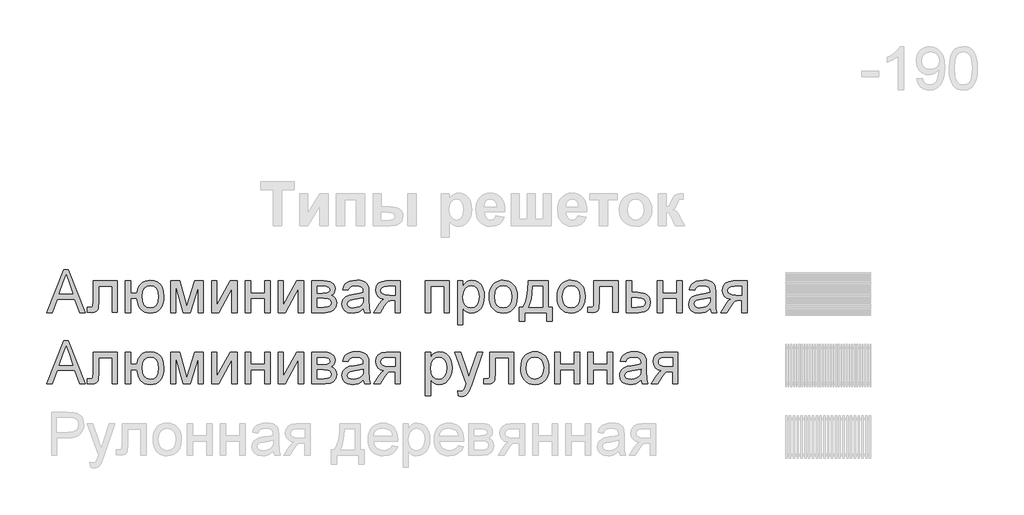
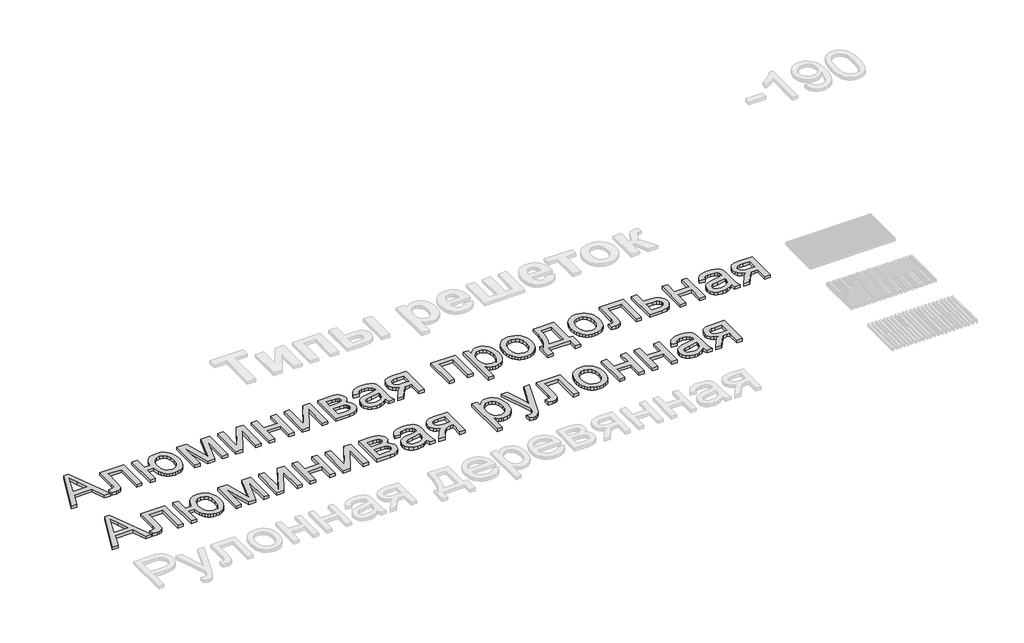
# One storey, part 2 of 10: 2 proxies.
"""IFC4 building model written with IfcOpenShell, lengths in millimetres."""

from ifc_helpers import new_model, si_unit, origin, origin_with_axes, place, context, project, spatial, polyline, outline, extrude, element, save

model = new_model("IFC4")

# Units and contexts
model_context = context("Model", 3, world=origin())
ifc_project = project(units=[si_unit("LENGTHUNIT", "METRE", prefix="MILLI")], contexts=[model_context])

# Site, building, storey
site = spatial("IfcSite", under=ifc_project)
building = spatial("IfcBuilding", under=site)
storey = spatial("IfcBuildingStorey", under=building, Name="Уровень 1", Elevation=0.0)

# Proxies
placement = place(None, origin())
element("IfcBuildingElementProxy", 1, Name="300", ObjectType="300", at=placement, inside=storey, context=model_context, shape_type="SweptSolid", body=[
    extrude(outline(polyline([(29.0156644, -18515.1127464), (149.3130768, -18213.7438159), (181.3923868, -18213.7438159), (301.6897992, -18515.1127464), (261.8849673, -18515.1127464), (227.3776362, -18420.9349556), (103.254251, -18420.9349556), (68.8204963, -18515.1127464), (29.0156644, -18515.1127464)]), holes=[polyline([(117.086614, -18383.2638393), (213.6188496, -18383.2638393), (186.4691583, -18309.1724055), (165.3527318, -18251.4149322), (146.5907501, -18302.6976824), (117.086614, -18383.2638393)])]), origin_with_axes(), (0.0, 0.0, 1.0), 20.0),
    extrude(outline(polyline([(356.0627581, -18293.7949381), (525.5827815, -18293.7949381), (525.5827815, -18514.8920172), (487.9116652, -18514.8920172), (487.9116652, -18331.4660544), (393.7338744, -18331.4660544), (393.7338744, -18437.048187), (391.1954887, -18485.7557632), (386.4406139, -18496.783026), (377.252761, -18506.3203667), (363.3100334, -18512.9146515), (344.2905343, -18515.1127464), (313.6827523, -18513.19976), (313.6827523, -18477.4416301), (330.5317476, -18477.4416301), (347.564684, -18475.1239735), (354.3705009, -18467.7663336), (356.0627581, -18434.9144714), (356.0627581, -18293.7949381)])), origin_with_axes(), (0.0, 0.0, 1.0), 20.0),
    extrude(outline(polyline([(582.0894559, -18293.7949381), (619.7605723, -18293.7949381), (619.7605723, -18378.5549498), (662.1405781, -18378.5549498), (671.9170421, -18340.1480695), (680.4404081, -18324.8073903), (691.3871967, -18312.041885), (704.4493068, -18301.9987066), (719.3186372, -18294.8250077), (754.4789589, -18289.0860485), (784.0290802, -18292.4613658), (806.6078376, -18302.5873178), (824.0270501, -18318.6361698), (838.0985364, -18339.7801875), (847.3967538, -18367.5920663), (850.4961596, -18403.6445018), (848.8935737, -18430.4998875), (844.0858159, -18453.8971824), (836.0728862, -18473.8363865), (824.8547846, -18490.3174999), (810.8913636, -18503.2255594), (794.6424757, -18512.4456019), (776.1081209, -18517.9776274), (755.2882993, -18519.8216359), (735.8848233, -18518.0925905), (718.5092968, -18512.9054544), (703.1617198, -18504.2602275), (689.8420923, -18492.1569099), (678.8815081, -18477.0369599), (670.611061, -18459.3418359), (662.1405781, -18416.2260661), (619.7605723, -18416.2260661), (619.7605723, -18515.1127464), (582.0894559, -18515.1127464), (582.0894559, -18293.7949381)]), holes=[polyline([(756.9069801, -18326.7571648), (732.8934828, -18331.6316013), (714.858068, -18346.2549106), (703.5732878, -18369.6705996), (699.8116944, -18400.9221751), (703.600879, -18437.3332956), (714.9684326, -18462.5424093), (732.6819507, -18477.248492), (755.5090285, -18482.1505196), (778.4004856, -18477.616374), (796.7486001, -18464.0139373), (808.8059325, -18440.3131397), (812.8250433, -18405.4839118), (809.3485585, -18371.04096), (798.9191039, -18346.4388516), (781.4631032, -18331.6775865), (756.9069801, -18326.7571648)])]), origin_with_axes(), (0.0, 0.0, 1.0), 20.0),
    extrude(outline(polyline([(897.585055, -18293.7949381), (962.4058626, -18293.7949381), (1012.3642375, -18470.966907), (1066.2221616, -18293.7949381), (1128.3206424, -18293.7949381), (1128.3206424, -18515.1127464), (1090.6495261, -18515.1127464), (1090.6495261, -18336.9107079), (1036.4972964, -18515.1127464), (987.0539562, -18515.1127464), (935.2561713, -18328.3758456), (935.2561713, -18515.1127464), (897.585055, -18515.1127464), (897.585055, -18293.7949381)])), origin_with_axes(), (0.0, 0.0, 1.0), 20.0),
    extrude(outline(polyline([(1184.8273168, -18293.7949381), (1222.4984332, -18293.7949381), (1222.4984332, -18462.5791975), (1315.0575431, -18293.7949381), (1363.7651193, -18293.7949381), (1363.7651193, -18515.1127464), (1326.094003, -18515.1127464), (1326.094003, -18347.3585566), (1234.1235042, -18515.1127464), (1184.8273168, -18515.1127464), (1184.8273168, -18293.7949381)])), origin_with_axes(), (0.0, 0.0, 1.0), 20.0),
    extrude(outline(polyline([(1420.2717938, -18293.7949381), (1457.9429101, -18293.7949381), (1457.9429101, -18378.5549498), (1556.8295904, -18378.5549498), (1556.8295904, -18293.7949381), (1594.5007067, -18293.7949381), (1594.5007067, -18515.1127464), (1556.8295904, -18515.1127464), (1556.8295904, -18416.2260661), (1457.9429101, -18416.2260661), (1457.9429101, -18515.1127464), (1420.2717938, -18515.1127464), (1420.2717938, -18293.7949381)])), origin_with_axes(), (0.0, 0.0, 1.0), 20.0),
    extrude(outline(polyline([(1651.0073811, -18293.7949381), (1688.6784974, -18293.7949381), (1688.6784974, -18462.5791975), (1781.2376074, -18293.7949381), (1829.9451836, -18293.7949381), (1829.9451836, -18515.1127464), (1792.2740673, -18515.1127464), (1792.2740673, -18347.3585566), (1700.3035685, -18515.1127464), (1651.0073811, -18515.1127464), (1651.0073811, -18293.7949381)])), origin_with_axes(), (0.0, 0.0, 1.0), 20.0),
    extrude(outline(polyline([(1886.451858, -18293.7949381), (1969.4460362, -18293.7949381), (1996.1266779, -18295.0549339), (2014.953039, -18298.8349214), (2028.8037961, -18305.9718321), (2040.5576258, -18317.3025976), (2048.5866504, -18332.0638626), (2051.2629919, -18349.4922722), (2049.6443111, -18363.5361673), (2044.7882688, -18375.648682), (2036.6764708, -18385.8849985), (2025.290523, -18394.3002992), (2039.2332506, -18402.1269886), (2050.6008043, -18414.7177499), (2058.1607793, -18431.0793016), (2060.680771, -18450.2183624), (2054.2980183, -18478.9315522), (2039.122886, -18499.1466678), (2015.1001918, -18511.1212267), (1982.1747532, -18515.1127464), (1886.451858, -18515.1127464), (1886.451858, -18293.7949381)]), holes=[polyline([(1924.1229744, -18378.5549498), (1961.3526323, -18378.5549498), (1992.0707789, -18376.6419634), (2007.0067879, -18368.9900179), (2011.9456037, -18362.6624476), (2013.5918756, -18355.1576549), (2010.7040019, -18343.9188599), (2002.0403809, -18336.6899787), (1986.387002, -18332.7720355), (1962.5298546, -18331.4660544), (1924.1229744, -18331.4660544), (1924.1229744, -18378.5549498)]), polyline([(1924.1229744, -18477.4416301), (1970.3289529, -18477.4416301), (1995.5104755, -18475.7401758), (2011.3110072, -18470.6358132), (2019.7906872, -18461.3559898), (2023.0096547, -18447.1281537), (2021.4001709, -18437.7011775), (2016.5717197, -18428.9915713), (2009.1588975, -18422.1765573), (1999.7963008, -18418.433358), (1966.650133, -18416.2260661), (1924.1229744, -18416.2260661), (1924.1229744, -18477.4416301)])]), origin_with_axes(), (0.0, 0.0, 1.0), 20.0),
    extrude(outline(polyline([(2249.0363525, -18486.8594092), (2231.0377259, -18502.2920588), (2212.5056704, -18512.3904196), (2193.0171217, -18517.9638318), (2172.1490155, -18519.8216359), (2140.6675138, -18515.3518697), (2117.4449628, -18501.942571), (2103.1251562, -18481.5803025), (2098.3518873, -18456.2516272), (2100.154509, -18440.6350365), (2105.5623744, -18426.4531855), (2113.9040986, -18414.3130797), (2124.5082971, -18404.8217242), (2150.8854362, -18392.4608892), (2183.479781, -18386.7955065), (2221.9970258, -18380.8358181), (2248.8156233, -18373.8460602), (2249.0363525, -18365.4583507), (2246.4427844, -18348.6461436), (2238.6620802, -18337.6464719), (2221.2612619, -18329.4794916), (2197.0178384, -18326.7571648), (2174.5770367, -18328.5689837), (2158.9052637, -18334.0044402), (2148.2182917, -18344.0568157), (2140.7318931, -18359.7193916), (2103.0607768, -18355.0105021), (2109.5998793, -18334.4091103), (2119.3579492, -18318.2223026), (2133.2454945, -18305.8430734), (2152.1730232, -18296.6644176), (2175.3219977, -18290.9806408), (2201.8738807, -18289.0860485), (2227.3405118, -18290.7599116), (2247.5280363, -18295.7815009), (2262.7491539, -18303.3322788), (2273.3165642, -18312.593708), (2280.3247162, -18324.0440351), (2284.8680588, -18338.1615067), (2286.7074688, -18371.1237335), (2286.7074688, -18417.9918997), (2288.6204552, -18483.4381066), (2296.1252479, -18515.1127464), (2258.4541316, -18515.1127464), (2249.0363525, -18486.8594092)]), holes=[polyline([(2249.0363525, -18411.5171765), (2188.2622469, -18423.0686712), (2155.8518431, -18429.1755123), (2141.1733515, -18439.1083262), (2136.0230036, -18453.6028768), (2138.8281038, -18464.8048835), (2147.2434044, -18473.9835393), (2161.0849645, -18480.1087745), (2180.168843, -18482.1505196), (2200.4023527, -18479.8972424), (2218.2814177, -18473.1374107), (2232.7759683, -18463.1770057), (2242.855935, -18451.3220084), (2247.3257012, -18439.1083262), (2248.8156233, -18422.1857544), (2249.0363525, -18411.5171765)])]), origin_with_axes(), (0.0, 0.0, 1.0), 20.0),
    extrude(outline(polyline([(2508.0252771, -18293.7949381), (2508.0252771, -18515.1127464), (2470.3541608, -18515.1127464), (2470.3541608, -18430.3527347), (2449.8263455, -18430.3527347), (2421.8673138, -18435.1352006), (2410.7020953, -18445.5646552), (2395.6005394, -18467.288087), (2365.5813686, -18515.1127464), (2322.0241403, -18515.1127464), (2359.8424094, -18454.6329464), (2376.544252, -18432.9279087), (2391.9217194, -18423.2894004), (2366.1699798, -18415.3983316), (2348.0701856, -18400.4071403), (2337.3648195, -18380.4679361), (2333.7963642, -18357.7328288), (2338.6708006, -18331.944301), (2353.2941099, -18311.5268502), (2377.1512573, -18298.2279161), (2409.727208, -18293.7949381), (2508.0252771, -18293.7949381)]), holes=[polyline([(2470.3541608, -18331.4660544), (2420.6900914, -18331.4660544), (2395.0395193, -18333.6457552), (2380.4805894, -18340.1848577), (2373.7207577, -18349.648622), (2371.4674805, -18360.6023084), (2374.7876155, -18374.9589033), (2384.7480205, -18384.9193083), (2403.1513173, -18390.7410409), (2431.8001277, -18392.6816184), (2470.3541608, -18392.6816184), (2470.3541608, -18331.4660544)])]), origin_with_axes(), (0.0, 0.0, 1.0), 20.0),
    extrude(outline(polyline([(2682.25419, -18293.7949381), (2851.7742134, -18293.7949381), (2851.7742134, -18515.1127464), (2814.1030971, -18515.1127464), (2814.1030971, -18331.4660544), (2719.9253063, -18331.4660544), (2719.9253063, -18515.1127464), (2682.25419, -18515.1127464), (2682.25419, -18293.7949381)])), origin_with_axes(), (0.0, 0.0, 1.0), 20.0),
    extrude(outline(polyline([(2908.2808879, -18599.8727581), (2908.2808879, -18293.7949381), (2945.9520042, -18293.7949381), (2945.9520042, -18330.7302904), (2958.2392628, -18312.5109346), (2971.9980494, -18299.497109), (2988.0377044, -18291.6888137), (3007.1675682, -18289.0860485), (3032.6433963, -18292.7280803), (3054.9186511, -18303.6541756), (3073.0552335, -18321.2021467), (3086.1150443, -18344.7098062), (3094.0061131, -18372.4665028), (3096.6364694, -18402.7615851), (3093.6658223, -18434.9788508), (3084.7538809, -18463.7932081), (3070.1857539, -18487.7423259), (3050.2465498, -18505.3638735), (3027.0239988, -18516.2071953), (3002.6058314, -18519.8216359), (2985.2877865, -18517.4028118), (2969.8275456, -18510.1463394), (2956.5929909, -18499.192653), (2945.9520042, -18485.6821868), (2945.9520042, -18599.8727581), (2908.2808879, -18599.8727581)]), holes=[polyline([(2945.9520042, -18406.2196758), (2950.0262973, -18439.991243), (2962.2491765, -18463.6092671), (2980.2845914, -18477.5152065), (3001.796491, -18482.1505196), (3023.6578786, -18477.3496596), (3042.1531459, -18462.9470795), (3054.7623013, -18438.4645327), (3058.9653531, -18403.4237726), (3054.8634688, -18369.8361465), (3042.5578161, -18345.8870286), (3024.5499924, -18331.5396308), (3003.3415954, -18326.7571648), (2982.0504249, -18331.8431334), (2963.3528225, -18347.1010392), (2950.3022087, -18372.0526355), (2945.9520042, -18406.2196758)])]), origin_with_axes(), (0.0, 0.0, 1.0), 20.0),
    extrude(outline(polyline([(3129.5986961, -18404.4538422), (3131.6358427, -18375.7912363), (3137.7472823, -18351.0925588), (3147.9330151, -18330.3578099), (3162.1930409, -18313.5869894), (3176.5496358, -18302.8678278), (3192.3961527, -18295.2112838), (3209.7325917, -18290.6173573), (3228.5589529, -18289.0860485), (3249.3419863, -18290.9507504), (3268.1338585, -18296.544856), (3284.9345693, -18305.8683653), (3299.7441189, -18318.9212784), (3311.8313417, -18335.2621367), (3320.4650723, -18354.449482), (3325.6453106, -18376.4833143), (3327.3720568, -18401.3636335), (3324.3186362, -18439.4210259), (3315.1583745, -18468.391733), (3300.1579862, -18490.0875737), (3279.5841856, -18506.3203667), (3255.1476241, -18516.4463186), (3228.5589529, -18519.8216359), (3207.4724167, -18517.9638318), (3188.5058006, -18512.3904196), (3171.6591045, -18503.1013992), (3156.9323284, -18490.0967707), (3144.9738643, -18473.5972632), (3136.4321042, -18453.823606), (3131.3070482, -18430.775799), (3129.5986961, -18404.4538422)]), holes=[polyline([(3167.2698125, -18404.3802658), (3171.6292141, -18438.4737297), (3184.707419, -18462.7631385), (3204.3891058, -18477.3036743), (3228.5589529, -18482.1505196), (3252.6184353, -18477.2760832), (3272.2633339, -18462.6527739), (3285.3415388, -18438.0414684), (3289.7009404, -18403.2030434), (3285.3139477, -18370.1028609), (3272.1529693, -18346.144546), (3252.4804796, -18331.6040101), (3228.5589529, -18326.7571648), (3204.3891058, -18331.585616), (3184.707419, -18346.0709696), (3171.6292141, -18370.305196), (3167.2698125, -18404.3802658)])]), origin_with_axes(), (0.0, 0.0, 1.0), 20.0),
    extrude(outline(polyline([(3402.7142894, -18293.7949381), (3543.9809755, -18293.7949381), (3543.9809755, -18477.4416301), (3572.2343127, -18477.4416301), (3572.2343127, -18576.3283104), (3534.5631964, -18576.3283104), (3534.5631964, -18515.1127464), (3379.1698417, -18515.1127464), (3379.1698417, -18576.3283104), (3341.4987254, -18576.3283104), (3341.4987254, -18477.4416301), (3365.0431731, -18477.4416301), (3382.1588829, -18446.5119513), (3394.1426389, -18405.5942764), (3400.994441, -18354.6886053), (3402.7142894, -18293.7949381)]), holes=[polyline([(3435.6765161, -18331.4660544), (3432.5863074, -18377.5892595), (3426.8473483, -18417.2929239), (3418.4596388, -18450.5770474), (3407.4231789, -18477.4416301), (3506.3098592, -18477.4416301), (3506.3098592, -18331.4660544), (3435.6765161, -18331.4660544)])]), origin_with_axes(), (0.0, 0.0, 1.0), 20.0),
    extrude(outline(polyline([(3605.1965395, -18404.4538422), (3607.2336861, -18375.7912363), (3613.3451257, -18351.0925588), (3623.5308584, -18330.3578099), (3637.7908843, -18313.5869894), (3652.1474791, -18302.8678278), (3667.9939961, -18295.2112838), (3685.3304351, -18290.6173573), (3704.1567962, -18289.0860485), (3724.9398297, -18290.9507504), (3743.7317018, -18296.544856), (3760.5324127, -18305.8683653), (3775.3419623, -18318.9212784), (3787.4291851, -18335.2621367), (3796.0629157, -18354.449482), (3801.243154, -18376.4833143), (3802.9699001, -18401.3636335), (3799.9164796, -18439.4210259), (3790.7562179, -18468.391733), (3775.7558295, -18490.0875737), (3755.1820289, -18506.3203667), (3730.7454674, -18516.4463186), (3704.1567962, -18519.8216359), (3683.0702601, -18517.9638318), (3664.103644, -18512.3904196), (3647.2569479, -18503.1013992), (3632.5301718, -18490.0967707), (3620.5717076, -18473.5972632), (3612.0299476, -18453.823606), (3606.9048915, -18430.775799), (3605.1965395, -18404.4538422)]), holes=[polyline([(3642.8676558, -18404.3802658), (3647.2270575, -18438.4737297), (3660.3052624, -18462.7631385), (3679.9869491, -18477.3036743), (3704.1567962, -18482.1505196), (3728.2162787, -18477.2760832), (3747.8611772, -18462.6527739), (3760.9393822, -18438.0414684), (3765.2987838, -18403.2030434), (3760.911791, -18370.1028609), (3747.7508126, -18346.144546), (3728.078323, -18331.6040101), (3704.1567962, -18326.7571648), (3679.9869491, -18331.585616), (3660.3052624, -18346.0709696), (3647.2270575, -18370.305196), (3642.8676558, -18404.3802658)])]), origin_with_axes(), (0.0, 0.0, 1.0), 20.0),
    extrude(outline(polyline([(3864.1854641, -18293.7949381), (4033.7054875, -18293.7949381), (4033.7054875, -18514.8920172), (3996.0343712, -18514.8920172), (3996.0343712, -18331.4660544), (3901.8565804, -18331.4660544), (3901.8565804, -18437.048187), (3899.3181947, -18485.7557632), (3894.5633199, -18496.783026), (3885.375467, -18506.3203667), (3871.4327394, -18512.9146515), (3852.4132403, -18515.1127464), (3821.8054583, -18513.19976), (3821.8054583, -18477.4416301), (3838.6544537, -18477.4416301), (3855.68739, -18475.1239735), (3862.4932069, -18467.7663336), (3864.1854641, -18434.9144714), (3864.1854641, -18293.7949381)])), origin_with_axes(), (0.0, 0.0, 1.0), 20.0),
    extrude(outline(polyline([(4090.212162, -18293.7949381), (4127.8832783, -18293.7949381), (4127.8832783, -18373.8460602), (4171.2933537, -18373.8460602), (4208.9276818, -18378.5641468), (4224.0752229, -18384.4617551), (4236.7763488, -18392.7184066), (4246.8195273, -18403.0489929), (4253.9932262, -18415.1684053), (4259.7321853, -18444.7737089), (4254.8485518, -18471.7302621), (4240.1976514, -18494.4745665), (4228.9657542, -18503.5037702), (4214.8045967, -18509.9532014), (4177.6945004, -18515.1127464), (4090.212162, -18515.1127464), (4090.212162, -18293.7949381)]), holes=[polyline([(4127.8832783, -18477.4416301), (4163.052797, -18477.4416301), (4190.340444, -18475.4642644), (4208.4862234, -18469.5321672), (4218.6673576, -18459.4062153), (4222.061069, -18444.8472853), (4219.5502744, -18432.5416326), (4212.0178906, -18421.6707196), (4195.877068, -18414.0555623), (4167.5409573, -18411.5171765), (4127.8832783, -18411.5171765), (4127.8832783, -18477.4416301)])]), origin_with_axes(), (0.0, 0.0, 1.0), 20.0),
    extrude(outline(polyline([(4306.8210807, -18293.7949381), (4344.492197, -18293.7949381), (4344.492197, -18378.5549498), (4443.3788773, -18378.5549498), (4443.3788773, -18293.7949381), (4481.0499936, -18293.7949381), (4481.0499936, -18515.1127464), (4443.3788773, -18515.1127464), (4443.3788773, -18416.2260661), (4344.492197, -18416.2260661), (4344.492197, -18515.1127464), (4306.8210807, -18515.1127464), (4306.8210807, -18293.7949381)])), origin_with_axes(), (0.0, 0.0, 1.0), 20.0),
    extrude(outline(polyline([(4678.8233542, -18486.8594092), (4660.8247276, -18502.2920588), (4642.2926721, -18512.3904196), (4622.8041234, -18517.9638318), (4601.9360172, -18519.8216359), (4570.4545155, -18515.3518697), (4547.2319646, -18501.942571), (4532.9121579, -18481.5803025), (4528.138889, -18456.2516272), (4529.9415108, -18440.6350365), (4535.3493761, -18426.4531855), (4543.6911004, -18414.3130797), (4554.2952989, -18404.8217242), (4580.6724379, -18392.4608892), (4613.2667827, -18386.7955065), (4651.7840276, -18380.8358181), (4678.602625, -18373.8460602), (4678.8233542, -18365.4583507), (4676.2297862, -18348.6461436), (4668.449082, -18337.6464719), (4651.0482636, -18329.4794916), (4626.8048401, -18326.7571648), (4604.3640384, -18328.5689837), (4588.6922654, -18334.0044402), (4578.0052935, -18344.0568157), (4570.5188949, -18359.7193916), (4532.8477786, -18355.0105021), (4539.386881, -18334.4091103), (4549.1449509, -18318.2223026), (4563.0324963, -18305.8430734), (4581.9600249, -18296.6644176), (4605.1089995, -18290.9806408), (4631.6608825, -18289.0860485), (4657.1275136, -18290.7599116), (4677.3150381, -18295.7815009), (4692.5361556, -18303.3322788), (4703.1035659, -18312.593708), (4710.1117179, -18324.0440351), (4714.6550606, -18338.1615067), (4716.4944705, -18371.1237335), (4716.4944705, -18417.9918997), (4718.4074569, -18483.4381066), (4725.9122496, -18515.1127464), (4688.2411333, -18515.1127464), (4678.8233542, -18486.8594092)]), holes=[polyline([(4678.8233542, -18411.5171765), (4618.0492486, -18423.0686712), (4585.6388449, -18429.1755123), (4570.9603533, -18439.1083262), (4565.8100053, -18453.6028768), (4568.6151055, -18464.8048835), (4577.0304062, -18473.9835393), (4590.8719662, -18480.1087745), (4609.9558447, -18482.1505196), (4630.1893545, -18479.8972424), (4648.0684194, -18473.1374107), (4662.5629701, -18463.1770057), (4672.6429367, -18451.3220084), (4677.112703, -18439.1083262), (4678.602625, -18422.1857544), (4678.8233542, -18411.5171765)])]), origin_with_axes(), (0.0, 0.0, 1.0), 20.0),
    extrude(outline(polyline([(4937.8122788, -18293.7949381), (4937.8122788, -18515.1127464), (4900.1411625, -18515.1127464), (4900.1411625, -18430.3527347), (4879.6133472, -18430.3527347), (4851.6543156, -18435.1352006), (4840.489097, -18445.5646552), (4825.3875411, -18467.288087), (4795.3683703, -18515.1127464), (4751.8111421, -18515.1127464), (4789.6294112, -18454.6329464), (4806.3312538, -18432.9279087), (4821.7087212, -18423.2894004), (4795.9569815, -18415.3983316), (4777.8571873, -18400.4071403), (4767.1518213, -18380.4679361), (4763.5833659, -18357.7328288), (4768.4578024, -18331.944301), (4783.0811117, -18311.5268502), (4806.9382591, -18298.2279161), (4839.5142097, -18293.7949381), (4937.8122788, -18293.7949381)]), holes=[polyline([(4900.1411625, -18331.4660544), (4850.4770932, -18331.4660544), (4824.8265211, -18333.6457552), (4810.2675911, -18340.1848577), (4803.5077595, -18349.648622), (4801.2544822, -18360.6023084), (4804.5746172, -18374.9589033), (4814.5350223, -18384.9193083), (4832.9383191, -18390.7410409), (4861.5871294, -18392.6816184), (4900.1411625, -18392.6816184), (4900.1411625, -18331.4660544)])]), origin_with_axes(), (0.0, 0.0, 1.0), 20.0),
])
element("IfcBuildingElementProxy", 2, Name="300", ObjectType="300", at=placement, inside=storey, context=model_context, shape_type="SweptSolid", body=[
    extrude(outline(polyline([(29.0156644, -19015.1127464), (149.3130768, -18713.7438159), (181.3923868, -18713.7438159), (301.6897992, -19015.1127464), (261.8849673, -19015.1127464), (227.3776362, -18920.9349556), (103.254251, -18920.9349556), (68.8204963, -19015.1127464), (29.0156644, -19015.1127464)]), holes=[polyline([(117.086614, -18883.2638393), (213.6188496, -18883.2638393), (186.4691583, -18809.1724055), (165.3527318, -18751.4149322), (146.5907501, -18802.6976824), (117.086614, -18883.2638393)])]), origin_with_axes(), (0.0, 0.0, 1.0), 20.0),
    extrude(outline(polyline([(356.0627581, -18793.7949381), (525.5827815, -18793.7949381), (525.5827815, -19014.8920172), (487.9116652, -19014.8920172), (487.9116652, -18831.4660544), (393.7338744, -18831.4660544), (393.7338744, -18937.048187), (391.1954887, -18985.7557632), (386.4406139, -18996.783026), (377.252761, -19006.3203667), (363.3100334, -19012.9146515), (344.2905343, -19015.1127464), (313.6827523, -19013.19976), (313.6827523, -18977.4416301), (330.5317476, -18977.4416301), (347.564684, -18975.1239735), (354.3705009, -18967.7663336), (356.0627581, -18934.9144714), (356.0627581, -18793.7949381)])), origin_with_axes(), (0.0, 0.0, 1.0), 20.0),
    extrude(outline(polyline([(582.0894559, -18793.7949381), (619.7605723, -18793.7949381), (619.7605723, -18878.5549498), (662.1405781, -18878.5549498), (671.9170421, -18840.1480695), (680.4404081, -18824.8073903), (691.3871967, -18812.041885), (704.4493068, -18801.9987066), (719.3186372, -18794.8250077), (754.4789589, -18789.0860485), (784.0290802, -18792.4613658), (806.6078376, -18802.5873178), (824.0270501, -18818.6361698), (838.0985364, -18839.7801875), (847.3967538, -18867.5920663), (850.4961596, -18903.6445018), (848.8935737, -18930.4998875), (844.0858159, -18953.8971824), (836.0728862, -18973.8363865), (824.8547846, -18990.3174999), (810.8913636, -19003.2255594), (794.6424757, -19012.4456019), (776.1081209, -19017.9776274), (755.2882993, -19019.8216359), (735.8848233, -19018.0925905), (718.5092968, -19012.9054544), (703.1617198, -19004.2602275), (689.8420923, -18992.1569099), (678.8815081, -18977.0369599), (670.611061, -18959.3418359), (662.1405781, -18916.2260661), (619.7605723, -18916.2260661), (619.7605723, -19015.1127464), (582.0894559, -19015.1127464), (582.0894559, -18793.7949381)]), holes=[polyline([(756.9069801, -18826.7571648), (732.8934828, -18831.6316013), (714.858068, -18846.2549106), (703.5732878, -18869.6705996), (699.8116944, -18900.9221751), (703.600879, -18937.3332956), (714.9684326, -18962.5424093), (732.6819507, -18977.248492), (755.5090285, -18982.1505196), (778.4004856, -18977.616374), (796.7486001, -18964.0139373), (808.8059325, -18940.3131397), (812.8250433, -18905.4839118), (809.3485585, -18871.04096), (798.9191039, -18846.4388516), (781.4631032, -18831.6775865), (756.9069801, -18826.7571648)])]), origin_with_axes(), (0.0, 0.0, 1.0), 20.0),
    extrude(outline(polyline([(897.585055, -18793.7949381), (962.4058626, -18793.7949381), (1012.3642375, -18970.966907), (1066.2221616, -18793.7949381), (1128.3206424, -18793.7949381), (1128.3206424, -19015.1127464), (1090.6495261, -19015.1127464), (1090.6495261, -18836.9107079), (1036.4972964, -19015.1127464), (987.0539562, -19015.1127464), (935.2561713, -18828.3758456), (935.2561713, -19015.1127464), (897.585055, -19015.1127464), (897.585055, -18793.7949381)])), origin_with_axes(), (0.0, 0.0, 1.0), 20.0),
    extrude(outline(polyline([(1184.8273168, -18793.7949381), (1222.4984332, -18793.7949381), (1222.4984332, -18962.5791975), (1315.0575431, -18793.7949381), (1363.7651193, -18793.7949381), (1363.7651193, -19015.1127464), (1326.094003, -19015.1127464), (1326.094003, -18847.3585566), (1234.1235042, -19015.1127464), (1184.8273168, -19015.1127464), (1184.8273168, -18793.7949381)])), origin_with_axes(), (0.0, 0.0, 1.0), 20.0),
    extrude(outline(polyline([(1420.2717938, -18793.7949381), (1457.9429101, -18793.7949381), (1457.9429101, -18878.5549498), (1556.8295904, -18878.5549498), (1556.8295904, -18793.7949381), (1594.5007067, -18793.7949381), (1594.5007067, -19015.1127464), (1556.8295904, -19015.1127464), (1556.8295904, -18916.2260661), (1457.9429101, -18916.2260661), (1457.9429101, -19015.1127464), (1420.2717938, -19015.1127464), (1420.2717938, -18793.7949381)])), origin_with_axes(), (0.0, 0.0, 1.0), 20.0),
    extrude(outline(polyline([(1651.0073811, -18793.7949381), (1688.6784974, -18793.7949381), (1688.6784974, -18962.5791975), (1781.2376074, -18793.7949381), (1829.9451836, -18793.7949381), (1829.9451836, -19015.1127464), (1792.2740673, -19015.1127464), (1792.2740673, -18847.3585566), (1700.3035685, -19015.1127464), (1651.0073811, -19015.1127464), (1651.0073811, -18793.7949381)])), origin_with_axes(), (0.0, 0.0, 1.0), 20.0),
    extrude(outline(polyline([(1886.451858, -18793.7949381), (1969.4460362, -18793.7949381), (1996.1266779, -18795.0549339), (2014.953039, -18798.8349214), (2028.8037961, -18805.9718321), (2040.5576258, -18817.3025976), (2048.5866504, -18832.0638626), (2051.2629919, -18849.4922722), (2049.6443111, -18863.5361673), (2044.7882688, -18875.648682), (2036.6764708, -18885.8849985), (2025.290523, -18894.3002992), (2039.2332506, -18902.1269886), (2050.6008043, -18914.7177499), (2058.1607793, -18931.0793016), (2060.680771, -18950.2183624), (2054.2980183, -18978.9315522), (2039.122886, -18999.1466678), (2015.1001918, -19011.1212267), (1982.1747532, -19015.1127464), (1886.451858, -19015.1127464), (1886.451858, -18793.7949381)]), holes=[polyline([(1924.1229744, -18878.5549498), (1961.3526323, -18878.5549498), (1992.0707789, -18876.6419634), (2007.0067879, -18868.9900179), (2011.9456037, -18862.6624476), (2013.5918756, -18855.1576549), (2010.7040019, -18843.9188599), (2002.0403809, -18836.6899787), (1986.387002, -18832.7720355), (1962.5298546, -18831.4660544), (1924.1229744, -18831.4660544), (1924.1229744, -18878.5549498)]), polyline([(1924.1229744, -18977.4416301), (1970.3289529, -18977.4416301), (1995.5104755, -18975.7401758), (2011.3110072, -18970.6358132), (2019.7906872, -18961.3559898), (2023.0096547, -18947.1281537), (2021.4001709, -18937.7011775), (2016.5717197, -18928.9915713), (2009.1588975, -18922.1765573), (1999.7963008, -18918.433358), (1966.650133, -18916.2260661), (1924.1229744, -18916.2260661), (1924.1229744, -18977.4416301)])]), origin_with_axes(), (0.0, 0.0, 1.0), 20.0),
    extrude(outline(polyline([(2249.0363525, -18986.8594092), (2231.0377259, -19002.2920588), (2212.5056704, -19012.3904196), (2193.0171217, -19017.9638318), (2172.1490155, -19019.8216359), (2140.6675138, -19015.3518697), (2117.4449628, -19001.942571), (2103.1251562, -18981.5803025), (2098.3518873, -18956.2516272), (2100.154509, -18940.6350365), (2105.5623744, -18926.4531855), (2113.9040986, -18914.3130797), (2124.5082971, -18904.8217242), (2150.8854362, -18892.4608892), (2183.479781, -18886.7955065), (2221.9970258, -18880.8358181), (2248.8156233, -18873.8460602), (2249.0363525, -18865.4583507), (2246.4427844, -18848.6461436), (2238.6620802, -18837.6464719), (2221.2612619, -18829.4794916), (2197.0178384, -18826.7571648), (2174.5770367, -18828.5689837), (2158.9052637, -18834.0044402), (2148.2182917, -18844.0568157), (2140.7318931, -18859.7193916), (2103.0607768, -18855.0105021), (2109.5998793, -18834.4091103), (2119.3579492, -18818.2223026), (2133.2454945, -18805.8430734), (2152.1730232, -18796.6644176), (2175.3219977, -18790.9806408), (2201.8738807, -18789.0860485), (2227.3405118, -18790.7599116), (2247.5280363, -18795.7815009), (2262.7491539, -18803.3322788), (2273.3165642, -18812.593708), (2280.3247162, -18824.0440351), (2284.8680588, -18838.1615067), (2286.7074688, -18871.1237335), (2286.7074688, -18917.9918997), (2288.6204552, -18983.4381066), (2296.1252479, -19015.1127464), (2258.4541316, -19015.1127464), (2249.0363525, -18986.8594092)]), holes=[polyline([(2249.0363525, -18911.5171765), (2188.2622469, -18923.0686712), (2155.8518431, -18929.1755123), (2141.1733515, -18939.1083262), (2136.0230036, -18953.6028768), (2138.8281038, -18964.8048835), (2147.2434044, -18973.9835393), (2161.0849645, -18980.1087745), (2180.168843, -18982.1505196), (2200.4023527, -18979.8972424), (2218.2814177, -18973.1374107), (2232.7759683, -18963.1770057), (2242.855935, -18951.3220084), (2247.3257012, -18939.1083262), (2248.8156233, -18922.1857544), (2249.0363525, -18911.5171765)])]), origin_with_axes(), (0.0, 0.0, 1.0), 20.0),
    extrude(outline(polyline([(2508.0252771, -18793.7949381), (2508.0252771, -19015.1127464), (2470.3541608, -19015.1127464), (2470.3541608, -18930.3527347), (2449.8263455, -18930.3527347), (2421.8673138, -18935.1352006), (2410.7020953, -18945.5646552), (2395.6005394, -18967.288087), (2365.5813686, -19015.1127464), (2322.0241403, -19015.1127464), (2359.8424094, -18954.6329464), (2376.544252, -18932.9279087), (2391.9217194, -18923.2894004), (2366.1699798, -18915.3983316), (2348.0701856, -18900.4071403), (2337.3648195, -18880.4679361), (2333.7963642, -18857.7328288), (2338.6708006, -18831.944301), (2353.2941099, -18811.5268502), (2377.1512573, -18798.2279161), (2409.727208, -18793.7949381), (2508.0252771, -18793.7949381)]), holes=[polyline([(2470.3541608, -18831.4660544), (2420.6900914, -18831.4660544), (2395.0395193, -18833.6457552), (2380.4805894, -18840.1848577), (2373.7207577, -18849.648622), (2371.4674805, -18860.6023084), (2374.7876155, -18874.9589033), (2384.7480205, -18884.9193083), (2403.1513173, -18890.7410409), (2431.8001277, -18892.6816184), (2470.3541608, -18892.6816184), (2470.3541608, -18831.4660544)])]), origin_with_axes(), (0.0, 0.0, 1.0), 20.0),
    extrude(outline(polyline([(2682.25419, -19099.8727581), (2682.25419, -18793.7949381), (2719.9253063, -18793.7949381), (2719.9253063, -18830.7302904), (2732.212565, -18812.5109346), (2745.9713516, -18799.497109), (2762.0110066, -18791.6888137), (2781.1408703, -18789.0860485), (2806.6166985, -18792.7280803), (2828.8919533, -18803.6541756), (2847.0285357, -18821.2021467), (2860.0883465, -18844.7098062), (2867.9794153, -18872.4665028), (2870.6097715, -18902.7615851), (2867.6391244, -18934.9788508), (2858.7271831, -18963.7932081), (2844.1590561, -18987.7423259), (2824.219852, -19005.3638735), (2800.997301, -19016.2071953), (2776.5791336, -19019.8216359), (2759.2610887, -19017.4028118), (2743.8008478, -19010.1463394), (2730.566293, -18999.192653), (2719.9253063, -18985.6821868), (2719.9253063, -19099.8727581), (2682.25419, -19099.8727581)]), holes=[polyline([(2719.9253063, -18906.2196758), (2723.9995994, -18939.991243), (2736.2224787, -18963.6092671), (2754.2578935, -18977.5152065), (2775.7697932, -18982.1505196), (2797.6311808, -18977.3496596), (2816.1264481, -18962.9470795), (2828.7356034, -18938.4645327), (2832.9386552, -18903.4237726), (2828.836771, -18869.8361465), (2816.5311183, -18845.8870286), (2798.5232946, -18831.5396308), (2777.3148976, -18826.7571648), (2756.0237271, -18831.8431334), (2737.3261247, -18847.1010392), (2724.2755109, -18872.0526355), (2719.9253063, -18906.2196758)])]), origin_with_axes(), (0.0, 0.0, 1.0), 20.0),
    extrude(outline(polyline([(2912.9897774, -19099.8727581), (2908.2808879, -19063.5995933), (2927.4107516, -19066.9105313), (2945.2898166, -19062.7534648), (2956.2527, -19051.1651819), (2966.5533959, -19023.4268795), (2969.4964518, -19014.303406), (2889.4453297, -18793.7949381), (2929.1765852, -18793.7949381), (2971.6301674, -18916.6675245), (2986.4190236, -18965.816559), (3001.2078798, -18922.4064836), (3044.8386845, -18793.7949381), (3084.2756343, -18793.7949381), (3007.2411446, -19020.4102471), (2987.228364, -19069.5592817), (2976.9828504, -19085.2494488), (2965.3761735, -19096.1203617), (2951.8932984, -19102.4663261), (2936.0191903, -19104.5816476), (2912.9897774, -19099.8727581)])), origin_with_axes(), (0.0, 0.0, 1.0), 20.0),
    extrude(outline(polyline([(3134.3075857, -18793.7949381), (3303.8276091, -18793.7949381), (3303.8276091, -19014.8920172), (3266.1564928, -19014.8920172), (3266.1564928, -18831.4660544), (3171.978702, -18831.4660544), (3171.978702, -18937.048187), (3169.4403162, -18985.7557632), (3164.6854414, -18996.783026), (3155.4975886, -19006.3203667), (3141.554861, -19012.9146515), (3122.5353618, -19015.1127464), (3091.9275798, -19013.19976), (3091.9275798, -18977.4416301), (3108.7765752, -18977.4416301), (3125.8095116, -18975.1239735), (3132.6153285, -18967.7663336), (3134.3075857, -18934.9144714), (3134.3075857, -18793.7949381)])), origin_with_axes(), (0.0, 0.0, 1.0), 20.0),
    extrude(outline(polyline([(3350.9165044, -18904.4538422), (3352.953651, -18875.7912363), (3359.0650906, -18851.0925588), (3369.2508234, -18830.3578099), (3383.5108492, -18813.5869894), (3397.8674441, -18802.8678278), (3413.713961, -18795.2112838), (3431.0504, -18790.6173573), (3449.8767611, -18789.0860485), (3470.6597946, -18790.9507504), (3489.4516668, -18796.544856), (3506.2523776, -18805.8683653), (3521.0619272, -18818.9212784), (3533.14915, -18835.2621367), (3541.7828806, -18854.449482), (3546.9631189, -18876.4833143), (3548.6898651, -18901.3636335), (3545.6364445, -18939.4210259), (3536.4761828, -18968.391733), (3521.4757945, -18990.0875737), (3500.9019939, -19006.3203667), (3476.4654324, -19016.4463186), (3449.8767611, -19019.8216359), (3428.790225, -19017.9638318), (3409.8236089, -19012.3904196), (3392.9769128, -19003.1013992), (3378.2501367, -18990.0967707), (3366.2916726, -18973.5972632), (3357.7499125, -18953.823606), (3352.6248565, -18930.775799), (3350.9165044, -18904.4538422)]), holes=[polyline([(3388.5876208, -18904.3802658), (3392.9470224, -18938.4737297), (3406.0252273, -18962.7631385), (3425.7069141, -18977.3036743), (3449.8767611, -18982.1505196), (3473.9362436, -18977.2760832), (3493.5811422, -18962.6527739), (3506.6593471, -18938.0414684), (3511.0187487, -18903.2030434), (3506.631756, -18870.1028609), (3493.4707776, -18846.144546), (3473.7982879, -18831.6040101), (3449.8767611, -18826.7571648), (3425.7069141, -18831.585616), (3406.0252273, -18846.0709696), (3392.9470224, -18870.305196), (3388.5876208, -18904.3802658)])]), origin_with_axes(), (0.0, 0.0, 1.0), 20.0),
    extrude(outline(polyline([(3591.0698709, -18793.7949381), (3628.7409872, -18793.7949381), (3628.7409872, -18878.5549498), (3727.6276675, -18878.5549498), (3727.6276675, -18793.7949381), (3765.2987838, -18793.7949381), (3765.2987838, -19015.1127464), (3727.6276675, -19015.1127464), (3727.6276675, -18916.2260661), (3628.7409872, -18916.2260661), (3628.7409872, -19015.1127464), (3591.0698709, -19015.1127464), (3591.0698709, -18793.7949381)])), origin_with_axes(), (0.0, 0.0, 1.0), 20.0),
    extrude(outline(polyline([(3821.8054583, -18793.7949381), (3859.4765746, -18793.7949381), (3859.4765746, -18878.5549498), (3958.3632549, -18878.5549498), (3958.3632549, -18793.7949381), (3996.0343712, -18793.7949381), (3996.0343712, -19015.1127464), (3958.3632549, -19015.1127464), (3958.3632549, -18916.2260661), (3859.4765746, -18916.2260661), (3859.4765746, -19015.1127464), (3821.8054583, -19015.1127464), (3821.8054583, -18793.7949381)])), origin_with_axes(), (0.0, 0.0, 1.0), 20.0),
    extrude(outline(polyline([(4193.8077318, -18986.8594092), (4175.8091052, -19002.2920588), (4157.2770497, -19012.3904196), (4137.788501, -19017.9638318), (4116.9203948, -19019.8216359), (4085.4388931, -19015.3518697), (4062.2163421, -19001.942571), (4047.8965355, -18981.5803025), (4043.1232666, -18956.2516272), (4044.9258883, -18940.6350365), (4050.3337537, -18926.4531855), (4058.6754779, -18914.3130797), (4069.2796764, -18904.8217242), (4095.6568155, -18892.4608892), (4128.2511603, -18886.7955065), (4166.7684052, -18880.8358181), (4193.5870026, -18873.8460602), (4193.8077318, -18865.4583507), (4191.2141637, -18848.6461436), (4183.4334595, -18837.6464719), (4166.0326412, -18829.4794916), (4141.7892177, -18826.7571648), (4119.348416, -18828.5689837), (4103.676643, -18834.0044402), (4092.989671, -18844.0568157), (4085.5032724, -18859.7193916), (4047.8321561, -18855.0105021), (4054.3712586, -18834.4091103), (4064.1293285, -18818.2223026), (4078.0168738, -18805.8430734), (4096.9444025, -18796.6644176), (4120.093377, -18790.9806408), (4146.64526, -18789.0860485), (4172.1118911, -18790.7599116), (4192.2994156, -18795.7815009), (4207.5205332, -18803.3322788), (4218.0879435, -18812.593708), (4225.0960955, -18824.0440351), (4229.6394381, -18838.1615067), (4231.4788481, -18871.1237335), (4231.4788481, -18917.9918997), (4233.3918345, -18983.4381066), (4240.8966272, -19015.1127464), (4203.2255109, -19015.1127464), (4193.8077318, -18986.8594092)]), holes=[polyline([(4193.8077318, -18911.5171765), (4133.0336262, -18923.0686712), (4100.6232224, -18929.1755123), (4085.9447308, -18939.1083262), (4080.7943829, -18953.6028768), (4083.5994831, -18964.8048835), (4092.0147837, -18973.9835393), (4105.8563438, -18980.1087745), (4124.9402223, -18982.1505196), (4145.173732, -18979.8972424), (4163.052797, -18973.1374107), (4177.5473476, -18963.1770057), (4187.6273143, -18951.3220084), (4192.0970805, -18939.1083262), (4193.5870026, -18922.1857544), (4193.8077318, -18911.5171765)])]), origin_with_axes(), (0.0, 0.0, 1.0), 20.0),
    extrude(outline(polyline([(4452.7966564, -18793.7949381), (4452.7966564, -19015.1127464), (4415.1255401, -19015.1127464), (4415.1255401, -18930.3527347), (4394.5977248, -18930.3527347), (4366.6386931, -18935.1352006), (4355.4734746, -18945.5646552), (4340.3719187, -18967.288087), (4310.3527479, -19015.1127464), (4266.7955196, -19015.1127464), (4304.6137887, -18954.6329464), (4321.3156313, -18932.9279087), (4336.6930987, -18923.2894004), (4310.9413591, -18915.3983316), (4292.8415649, -18900.4071403), (4282.1361988, -18880.4679361), (4278.5677435, -18857.7328288), (4283.4421799, -18831.944301), (4298.0654892, -18811.5268502), (4321.9226366, -18798.2279161), (4354.4985873, -18793.7949381), (4452.7966564, -18793.7949381)]), holes=[polyline([(4415.1255401, -18831.4660544), (4365.4614707, -18831.4660544), (4339.8108986, -18833.6457552), (4325.2519687, -18840.1848577), (4318.492137, -18849.648622), (4316.2388598, -18860.6023084), (4319.5589948, -18874.9589033), (4329.5193998, -18884.9193083), (4347.9226966, -18890.7410409), (4376.571507, -18892.6816184), (4415.1255401, -18892.6816184), (4415.1255401, -18831.4660544)])]), origin_with_axes(), (0.0, 0.0, 1.0), 20.0),
])

save(model, "model.ifc")
